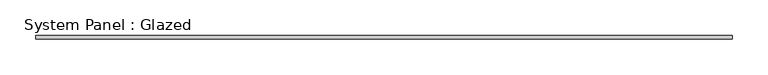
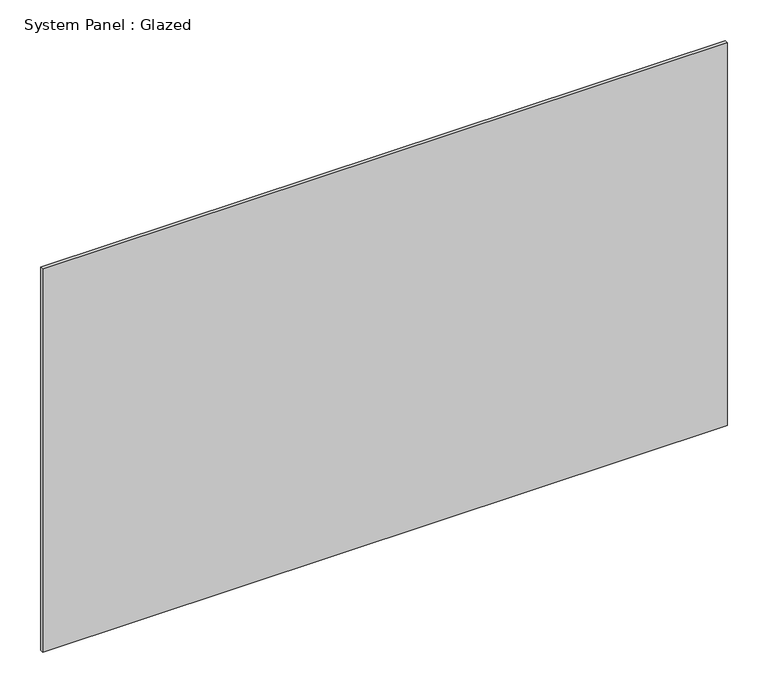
"""IFC4 building model written with IfcOpenShell, lengths in millimetres: plate geometry, System Panel : Glazed."""

from ifc_helpers import new_model, si_unit, origin, origin_with_axes, place, context, project, spatial, polyline, outline, extrude, source, transform, mapped, element, save


def system_panel_glazed_750eec45(model_context):
    return source(origin(), model_context, "Body", "SweptSolid", [
        extrude(outline(polyline([(487.5, -2.5), (-487.5, -2.5), (-487.5, 2.5), (487.5, 2.5), (487.5, -2.5)])), origin_with_axes(), (0.0, 0.0, 1.0), 576.9934774),
    ])


if __name__ == "__main__":
    model = new_model("IFC4")
    model_context = context("Model", 3, world=origin())
    ifc_project = project(units=[si_unit("LENGTHUNIT", "METRE", prefix="MILLI")], contexts=[model_context])
    site = spatial("IfcSite", under=ifc_project)
    building = spatial("IfcBuilding", under=site)
    placement = place(None, origin())
    system_panel_glazed_shape = system_panel_glazed_750eec45(model_context)
    element("IfcPlate", 1, ObjectType="System Panel : Glazed", at=placement, inside=building, context=model_context, shape_type="MappedRepresentation", body=[
        mapped(system_panel_glazed_shape, transform((0.0, 0.0, 0.0), x_axis=(1.0, 0.0, 0.0), y_axis=(0.0, 1.0, 0.0), z_axis=(0.0, 0.0, 1.0))),
    ])
    save(model, "model.ifc")
